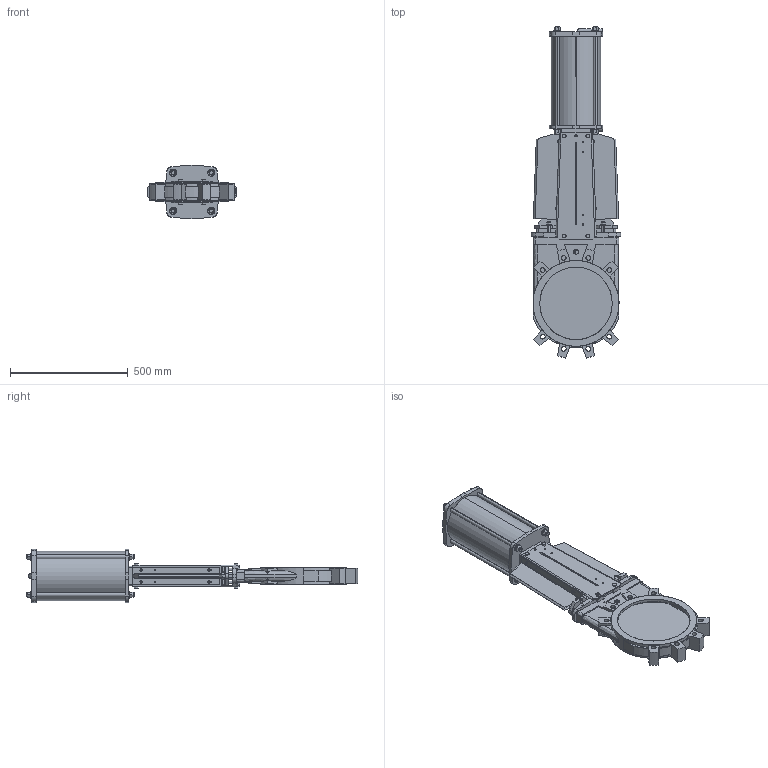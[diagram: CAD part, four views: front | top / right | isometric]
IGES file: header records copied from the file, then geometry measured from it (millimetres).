
Start section: SolidWorks IGES file using analytic representation for surfaces
Global section: file name: D:\part\3D Projects\VG-PNEUMATIC ACTUATOR(DN50-600)\VG P DN300\VG P DN300.IGS; native system: SolidWorks 2009; preprocessor: SolidWorks 2009; author: zhixin.zheng; date: 100310.095918; units: millimetre
Bounding box: 380 x 1411.05 x 228 mm (x, y, z)
Surface area: 2215119.1 mm2 (no closed solid volume)
Topology: 0 solids, 0 shells, 1150 faces, 12756 edges, 12756 vertices
Faces by surface type: bspline 732, revolution 418
